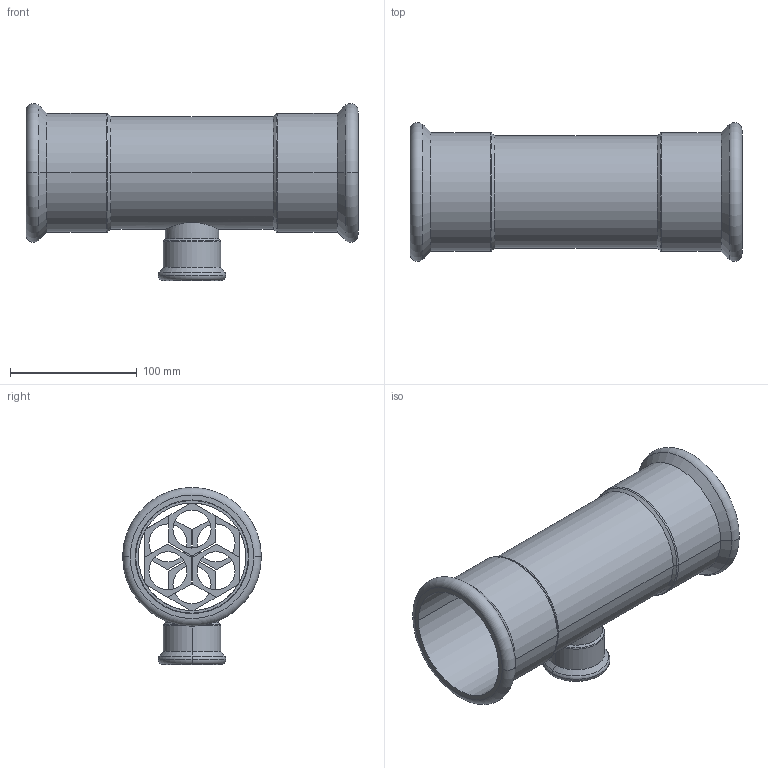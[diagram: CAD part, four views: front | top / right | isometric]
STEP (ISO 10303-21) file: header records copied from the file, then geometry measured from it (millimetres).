
FILE_DESCRIPTION(('OneSpaceDesigner STEP Export'),'2;1');
FILE_NAME('R2715 89x42x89.stp','2010-06-10T 9:34:15',(''),(''),'OneSpace Designer STEP processor for AP214 (Solid Model)','OneSpace Modeling 15.00A 14-Mar-2007 (C) CoCreate Software GmbH','');
FILE_SCHEMA(('AUTOMOTIVE_DESIGN { 1 0 10303 214 1 1 1 1 }'));
Length unit declared in the file: millimetre
Products named in the file (2): R2715_89x42x89
Assembly tree (1 placements, depth 2):
  R2715_89x42x89
    R2715_89x42x89
Bounding box: 262 x 109.48 x 139.74 mm (x, y, z)
Volume: 231526.4 mm3; surface area: 181385.8 mm2
Topology: 1 solids, 1 shells, 170 faces, 424 edges, 273 vertices
Faces by surface type: plane 90, cylinder 54, torus 14, cone 12
Entity records: 5671 total; most frequent: CARTESIAN_POINT 1942, ORIENTED_EDGE 848, DIRECTION 643, EDGE_CURVE 424, VERTEX_POINT 273, VECTOR 263, LINE 263, EDGE_LOOP 207
